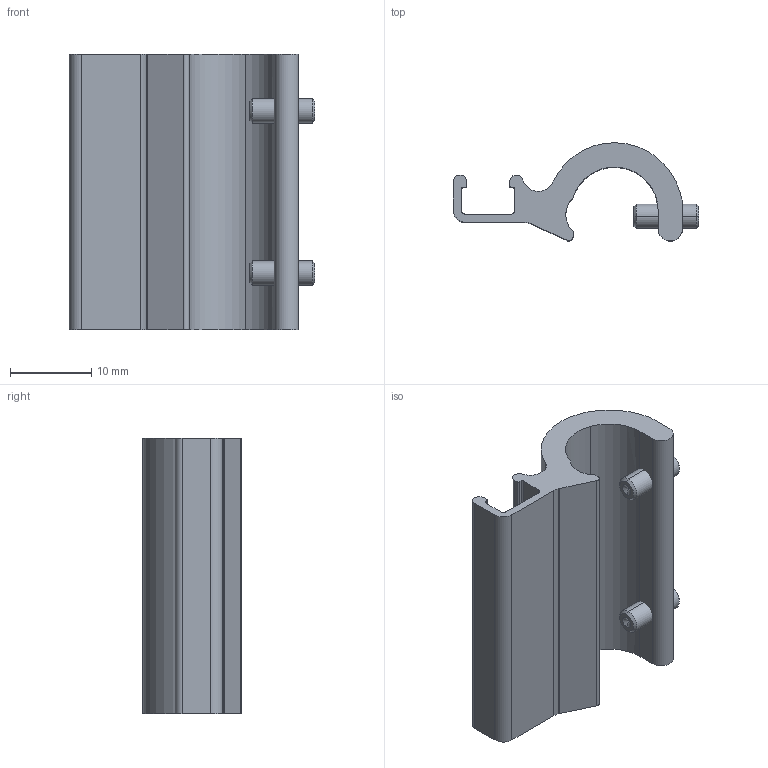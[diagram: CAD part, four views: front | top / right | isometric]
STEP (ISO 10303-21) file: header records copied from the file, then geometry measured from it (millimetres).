
FILE_DESCRIPTION (( 'STEP AP214' ), '1' );
FILE_NAME ('Halter DZ T- Nut D32 ... D100-+-PD48955_ .STEP', '2019-04-15T11:37:18', ( '' ), ( '' ), 'SwSTEP 2.0', 'SolidWorks 2014', '' );
FILE_SCHEMA (( 'AUTOMOTIVE_DESIGN' ));
Length unit declared in the file: millimetre
Products named in the file (3): Halter DZ T- Nut D32 ... D100-+-PD48955_ ; Halter Zugstange D32 ... 100  V3x-+-PD48955_ _PDB_PD48955; GEWINDESTIFT_M3_DIN916-+-M3-DIN916_PDB_1041
Assembly tree (3 placements, depth 2):
  Halter DZ T- Nut D32 ... D100-+-PD48955_ 
    Halter Zugstange D32 ... 100  V3x-+-PD48955_ _PDB_PD48955
    GEWINDESTIFT_M3_DIN916-+-M3-DIN916_PDB_1041  x2
Bounding box: 30.27 x 12.1 x 34 mm (x, y, z)
Volume: 4018.4 mm3; surface area: 3758.2 mm2
Topology: 3 solids, 3 shells, 89 faces, 229 edges, 144 vertices
Faces by surface type: plane 46, cylinder 31, cone 12
Entity records: 2271 total; most frequent: CARTESIAN_POINT 400, DIRECTION 381, ORIENTED_EDGE 354, EDGE_CURVE 177, AXIS2_PLACEMENT_3D 136, VERTEX_POINT 115, VECTOR 109, LINE 109
